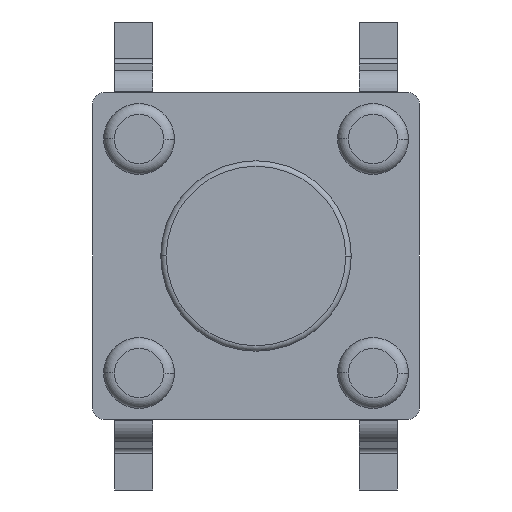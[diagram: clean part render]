
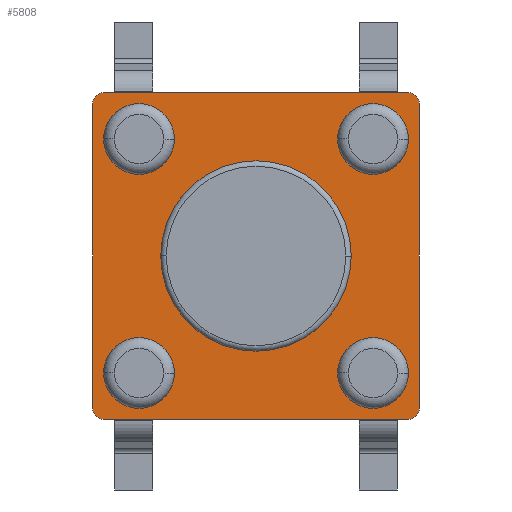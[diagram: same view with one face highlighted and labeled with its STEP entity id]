
A CAD part, front view. The second image highlights one B-rep face of the part: STEP entity #5808.
In plain terms, the highlighted planar face has unit normal (0, -1, 0).
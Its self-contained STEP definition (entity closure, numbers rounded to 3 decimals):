
#5453=CARTESIAN_POINT('',(-2.15,-0.2,-2.15));
#5454=DIRECTION('',(0.,-1.,0.));
#5455=DIRECTION('',(1.,0.,0.));
#5456=AXIS2_PLACEMENT_3D('',#5453,#5454,#5455);
#5458=CARTESIAN_POINT('',(-2.15,-0.2,-2.15));
#5459=DIRECTION('',(0.,-1.,0.));
#5460=DIRECTION('',(-1.,0.,0.));
#5461=AXIS2_PLACEMENT_3D('',#5458,#5459,#5460);
#5463=CARTESIAN_POINT('',(2.15,-0.2,-2.15));
#5464=DIRECTION('',(0.,-1.,0.));
#5465=DIRECTION('',(1.,0.,0.));
#5466=AXIS2_PLACEMENT_3D('',#5463,#5464,#5465);
#5468=CARTESIAN_POINT('',(2.15,-0.2,-2.15));
#5469=DIRECTION('',(0.,-1.,0.));
#5470=DIRECTION('',(-1.,0.,0.));
#5471=AXIS2_PLACEMENT_3D('',#5468,#5469,#5470);
#5473=CARTESIAN_POINT('',(2.15,-0.2,2.15));
#5474=DIRECTION('',(0.,-1.,0.));
#5475=DIRECTION('',(1.,0.,0.));
#5476=AXIS2_PLACEMENT_3D('',#5473,#5474,#5475);
#5478=CARTESIAN_POINT('',(2.15,-0.2,2.15));
#5479=DIRECTION('',(0.,-1.,0.));
#5480=DIRECTION('',(-1.,0.,0.));
#5481=AXIS2_PLACEMENT_3D('',#5478,#5479,#5480);
#5483=CARTESIAN_POINT('',(-2.15,-0.2,2.15));
#5484=DIRECTION('',(0.,-1.,0.));
#5485=DIRECTION('',(1.,0.,0.));
#5486=AXIS2_PLACEMENT_3D('',#5483,#5484,#5485);
#5488=CARTESIAN_POINT('',(-2.15,-0.2,2.15));
#5489=DIRECTION('',(0.,-1.,0.));
#5490=DIRECTION('',(-1.,0.,0.));
#5491=AXIS2_PLACEMENT_3D('',#5488,#5489,#5490);
#5493=CARTESIAN_POINT('',(0.,-0.2,0.));
#5494=DIRECTION('',(0.,-1.,0.));
#5495=DIRECTION('',(1.,0.,0.));
#5496=AXIS2_PLACEMENT_3D('',#5493,#5494,#5495);
#5498=CARTESIAN_POINT('',(0.,-0.2,0.));
#5499=DIRECTION('',(0.,-1.,0.));
#5500=DIRECTION('',(-1.,0.,0.));
#5501=AXIS2_PLACEMENT_3D('',#5498,#5499,#5500);
#5503=CARTESIAN_POINT('',(-2.8,-0.2,-2.8));
#5504=DIRECTION('',(0.,-1.,0.));
#5505=DIRECTION('',(-1.,0.,0.));
#5506=AXIS2_PLACEMENT_3D('',#5503,#5504,#5505);
#5508=DIRECTION('',(0.,0.,1.));
#5509=VECTOR('',#5508,5.6);
#5510=CARTESIAN_POINT('',(-3.,-0.2,-2.8));
#5511=LINE('',#5510,#5509);
#5512=CARTESIAN_POINT('',(-2.8,-0.2,2.8));
#5513=DIRECTION('',(0.,-1.,0.));
#5514=DIRECTION('',(0.,0.,1.));
#5515=AXIS2_PLACEMENT_3D('',#5512,#5513,#5514);
#5517=DIRECTION('',(1.,0.,0.));
#5518=VECTOR('',#5517,5.6);
#5519=CARTESIAN_POINT('',(-2.8,-0.2,3.));
#5520=LINE('',#5519,#5518);
#5521=CARTESIAN_POINT('',(2.8,-0.2,2.8));
#5522=DIRECTION('',(0.,-1.,0.));
#5523=DIRECTION('',(1.,0.,0.));
#5524=AXIS2_PLACEMENT_3D('',#5521,#5522,#5523);
#5526=DIRECTION('',(0.,0.,-1.));
#5527=VECTOR('',#5526,5.6);
#5528=CARTESIAN_POINT('',(3.,-0.2,2.8));
#5529=LINE('',#5528,#5527);
#5530=CARTESIAN_POINT('',(2.8,-0.2,-2.8));
#5531=DIRECTION('',(0.,-1.,0.));
#5532=DIRECTION('',(0.,0.,-1.));
#5533=AXIS2_PLACEMENT_3D('',#5530,#5531,#5532);
#5535=DIRECTION('',(-1.,0.,0.));
#5536=VECTOR('',#5535,5.6);
#5537=CARTESIAN_POINT('',(2.8,-0.2,-3.));
#5538=LINE('',#5537,#5536);
#5619=CARTESIAN_POINT('',(-1.75,-0.2,-2.15));
#5620=CARTESIAN_POINT('',(-2.55,-0.2,-2.15));
#5621=VERTEX_POINT('',#5619);
#5622=VERTEX_POINT('',#5620);
#5623=CARTESIAN_POINT('',(2.55,-0.2,-2.15));
#5624=CARTESIAN_POINT('',(1.75,-0.2,-2.15));
#5625=VERTEX_POINT('',#5623);
#5626=VERTEX_POINT('',#5624);
#5627=CARTESIAN_POINT('',(2.55,-0.2,2.15));
#5628=CARTESIAN_POINT('',(1.75,-0.2,2.15));
#5629=VERTEX_POINT('',#5627);
#5630=VERTEX_POINT('',#5628);
#5631=CARTESIAN_POINT('',(-1.75,-0.2,2.15));
#5632=CARTESIAN_POINT('',(-2.55,-0.2,2.15));
#5633=VERTEX_POINT('',#5631);
#5634=VERTEX_POINT('',#5632);
#5639=CARTESIAN_POINT('',(1.75,-0.2,0.));
#5640=CARTESIAN_POINT('',(-1.75,-0.2,0.));
#5641=VERTEX_POINT('',#5639);
#5642=VERTEX_POINT('',#5640);
#5647=CARTESIAN_POINT('',(-3.,-0.2,-2.8));
#5648=VERTEX_POINT('',#5647);
#5649=CARTESIAN_POINT('',(-2.8,-0.2,-3.));
#5650=VERTEX_POINT('',#5649);
#5655=CARTESIAN_POINT('',(-2.8,-0.2,3.));
#5656=VERTEX_POINT('',#5655);
#5657=CARTESIAN_POINT('',(-3.,-0.2,2.8));
#5658=VERTEX_POINT('',#5657);
#5663=CARTESIAN_POINT('',(3.,-0.2,2.8));
#5664=VERTEX_POINT('',#5663);
#5665=CARTESIAN_POINT('',(2.8,-0.2,3.));
#5666=VERTEX_POINT('',#5665);
#5671=CARTESIAN_POINT('',(2.8,-0.2,-3.));
#5672=VERTEX_POINT('',#5671);
#5673=CARTESIAN_POINT('',(3.,-0.2,-2.8));
#5674=VERTEX_POINT('',#5673);
#5757=CARTESIAN_POINT('',(0.,-0.2,0.));
#5758=DIRECTION('',(0.,1.,0.));
#5759=DIRECTION('',(1.,0.,0.));
#5760=AXIS2_PLACEMENT_3D('',#5757,#5758,#5759);
#5761=PLANE('',#5760);
#5763=ORIENTED_EDGE('',*,*,#5762,.F.);
#5765=ORIENTED_EDGE('',*,*,#5764,.T.);
#5767=ORIENTED_EDGE('',*,*,#5766,.F.);
#5769=ORIENTED_EDGE('',*,*,#5768,.T.);
#5771=ORIENTED_EDGE('',*,*,#5770,.F.);
#5773=ORIENTED_EDGE('',*,*,#5772,.T.);
#5775=ORIENTED_EDGE('',*,*,#5774,.F.);
#5777=ORIENTED_EDGE('',*,*,#5776,.T.);
#5778=EDGE_LOOP('',(#5763,#5765,#5767,#5769,#5771,#5773,#5775,#5777));
#5779=FACE_OUTER_BOUND('',#5778,.F.);
#5781=ORIENTED_EDGE('',*,*,#5780,.T.);
#5783=ORIENTED_EDGE('',*,*,#5782,.T.);
#5784=EDGE_LOOP('',(#5781,#5783));
#5785=FACE_BOUND('',#5784,.F.);
#5787=ORIENTED_EDGE('',*,*,#5786,.T.);
#5789=ORIENTED_EDGE('',*,*,#5788,.T.);
#5790=EDGE_LOOP('',(#5787,#5789));
#5791=FACE_BOUND('',#5790,.F.);
#5793=ORIENTED_EDGE('',*,*,#5792,.T.);
#5795=ORIENTED_EDGE('',*,*,#5794,.T.);
#5796=EDGE_LOOP('',(#5793,#5795));
#5797=FACE_BOUND('',#5796,.F.);
#5799=ORIENTED_EDGE('',*,*,#5798,.T.);
#5801=ORIENTED_EDGE('',*,*,#5800,.T.);
#5802=EDGE_LOOP('',(#5799,#5801));
#5803=FACE_BOUND('',#5802,.F.);
#5804=ORIENTED_EDGE('',*,*,#5737,.T.);
#5805=ORIENTED_EDGE('',*,*,#5751,.T.);
#5806=EDGE_LOOP('',(#5804,#5805));
#5807=FACE_BOUND('',#5806,.F.);
#5457=CIRCLE('',#5456,0.4);
#5462=CIRCLE('',#5461,0.4);
#5467=CIRCLE('',#5466,0.4);
#5472=CIRCLE('',#5471,0.4);
#5477=CIRCLE('',#5476,0.4);
#5482=CIRCLE('',#5481,0.4);
#5487=CIRCLE('',#5486,0.4);
#5492=CIRCLE('',#5491,0.4);
#5497=CIRCLE('',#5496,1.75);
#5502=CIRCLE('',#5501,1.75);
#5507=CIRCLE('',#5506,0.2);
#5516=CIRCLE('',#5515,0.2);
#5525=CIRCLE('',#5524,0.2);
#5534=CIRCLE('',#5533,0.2);
#5737=EDGE_CURVE('',#5621,#5622,#5457,.T.);
#5751=EDGE_CURVE('',#5622,#5621,#5462,.T.);
#5762=EDGE_CURVE('',#5648,#5650,#5507,.T.);
#5764=EDGE_CURVE('',#5648,#5658,#5511,.T.);
#5766=EDGE_CURVE('',#5656,#5658,#5516,.T.);
#5768=EDGE_CURVE('',#5656,#5666,#5520,.T.);
#5770=EDGE_CURVE('',#5664,#5666,#5525,.T.);
#5772=EDGE_CURVE('',#5664,#5674,#5529,.T.);
#5774=EDGE_CURVE('',#5672,#5674,#5534,.T.);
#5776=EDGE_CURVE('',#5672,#5650,#5538,.T.);
#5780=EDGE_CURVE('',#5625,#5626,#5467,.T.);
#5782=EDGE_CURVE('',#5626,#5625,#5472,.T.);
#5786=EDGE_CURVE('',#5629,#5630,#5477,.T.);
#5788=EDGE_CURVE('',#5630,#5629,#5482,.T.);
#5792=EDGE_CURVE('',#5633,#5634,#5487,.T.);
#5794=EDGE_CURVE('',#5634,#5633,#5492,.T.);
#5798=EDGE_CURVE('',#5641,#5642,#5497,.T.);
#5800=EDGE_CURVE('',#5642,#5641,#5502,.T.);
#5808=ADVANCED_FACE('',(#5779,#5785,#5791,#5797,#5803,#5807),#5761,.F.);
